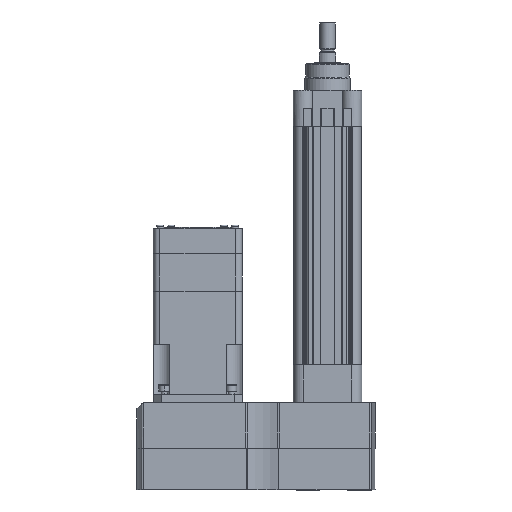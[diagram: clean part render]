
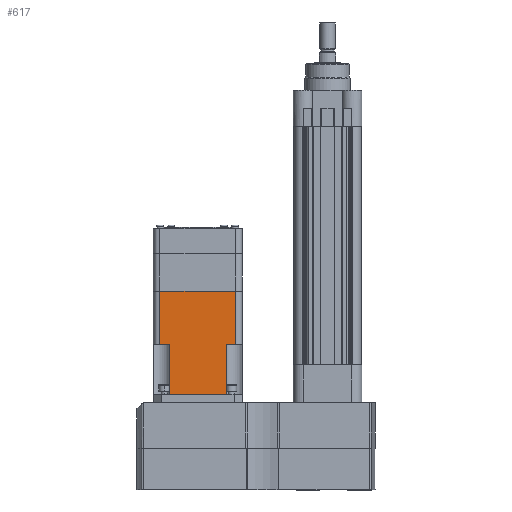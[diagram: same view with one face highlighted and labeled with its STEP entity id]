
A CAD part, front view. The second image highlights one B-rep face of the part: STEP entity #617.
In plain terms, the highlighted planar face has unit normal (0, -1, 0).
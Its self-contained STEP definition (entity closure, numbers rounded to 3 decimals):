
#172 = VERTEX_POINT ( 'NONE', #23578 ) ;
#617 = ADVANCED_FACE ( 'NONE', ( #43489 ), #12324, .F. ) ;
#759 = CARTESIAN_POINT ( 'NONE',  ( -6.401, -35.052, 35.052 ) ) ;
#2708 = CARTESIAN_POINT ( 'NONE',  ( -45.898, -35.052, 29.972 ) ) ;
#3036 = ORIENTED_EDGE ( 'NONE', *, *, #5559, .F. ) ;
#5559 = EDGE_CURVE ( 'NONE', #172, #39081, #31789, .T. ) ;
#6522 = EDGE_CURVE ( 'NONE', #32365, #30717, #11619, .T. ) ;
#6670 = LINE ( 'NONE', #27040, #39233 ) ;
#6953 = EDGE_CURVE ( 'NONE', #16240, #30579, #13266, .T. ) ;
#7124 = EDGE_CURVE ( 'NONE', #172, #16240, #14871, .T. ) ;
#9428 = VECTOR ( 'NONE', #18970, 1000. ) ;
#9833 = ORIENTED_EDGE ( 'NONE', *, *, #7124, .T. ) ;
#10155 = LINE ( 'NONE', #759, #11258 ) ;
#10171 = CARTESIAN_POINT ( 'NONE',  ( -45.898, -35.052, -22.476 ) ) ;
#11258 = VECTOR ( 'NONE', #21553, 1000. ) ;
#11619 = LINE ( 'NONE', #43266, #9428 ) ;
#12249 = ORIENTED_EDGE ( 'NONE', *, *, #40396, .F. ) ;
#12324 = PLANE ( 'NONE',  #33641 ) ;
#12861 = CARTESIAN_POINT ( 'NONE',  ( -87.884, -35.052, -29.972 ) ) ;
#13266 = LINE ( 'NONE', #14261, #30679 ) ;
#13301 = VECTOR ( 'NONE', #39608, 1000. ) ;
#13940 = VECTOR ( 'NONE', #35511, 1000. ) ;
#14261 = CARTESIAN_POINT ( 'NONE',  ( -87.884, -35.052, 29.972 ) ) ;
#14294 = EDGE_CURVE ( 'NONE', #32365, #30579, #6670, .T. ) ;
#14871 = LINE ( 'NONE', #42902, #32270 ) ;
#16240 = VERTEX_POINT ( 'NONE', #2708 ) ;
#16738 = CARTESIAN_POINT ( 'NONE',  ( -45.898, -35.052, -29.972 ) ) ;
#17452 = ORIENTED_EDGE ( 'NONE', *, *, #44166, .T. ) ;
#18843 = EDGE_LOOP ( 'NONE', ( #35543, #22085, #34067, #12249, #17452, #3036, #9833, #19650 ) ) ;
#18970 = DIRECTION ( 'NONE',  ( 1., 0., 0. ) ) ;
#19650 = ORIENTED_EDGE ( 'NONE', *, *, #6953, .T. ) ;
#21553 = DIRECTION ( 'NONE',  ( 0., 0., 1. ) ) ;
#22085 = ORIENTED_EDGE ( 'NONE', *, *, #6522, .T. ) ;
#22809 = CARTESIAN_POINT ( 'NONE',  ( -87.884, -35.052, 29.972 ) ) ;
#23161 = LINE ( 'NONE', #42311, #13940 ) ;
#23555 = VECTOR ( 'NONE', #41396, 1000. ) ;
#23578 = CARTESIAN_POINT ( 'NONE',  ( -45.898, -35.052, 22.476 ) ) ;
#26115 = DIRECTION ( 'NONE',  ( 0., 1., 0. ) ) ;
#27040 = CARTESIAN_POINT ( 'NONE',  ( -87.884, -35.052, 35.052 ) ) ;
#28861 = DIRECTION ( 'NONE',  ( 0., 0., 1. ) ) ;
#29638 = CARTESIAN_POINT ( 'NONE',  ( -87.884, -35.052, 35.052 ) ) ;
#30579 = VERTEX_POINT ( 'NONE', #22809 ) ;
#30679 = VECTOR ( 'NONE', #38536, 1000. ) ;
#30717 = VERTEX_POINT ( 'NONE', #16738 ) ;
#31789 = LINE ( 'NONE', #43085, #13301 ) ;
#32270 = VECTOR ( 'NONE', #28861, 1000. ) ;
#32365 = VERTEX_POINT ( 'NONE', #12861 ) ;
#32793 = LINE ( 'NONE', #10171, #23555 ) ;
#33641 = AXIS2_PLACEMENT_3D ( 'NONE', #29638, #26115, #36573 ) ;
#34067 = ORIENTED_EDGE ( 'NONE', *, *, #38895, .T. ) ;
#35304 = VERTEX_POINT ( 'NONE', #41513 ) ;
#35511 = DIRECTION ( 'NONE',  ( 0., 0., 1. ) ) ;
#35543 = ORIENTED_EDGE ( 'NONE', *, *, #14294, .F. ) ;
#36369 = CARTESIAN_POINT ( 'NONE',  ( -6.401, -35.052, 22.476 ) ) ;
#36573 = DIRECTION ( 'NONE',  ( 0., 0., 1. ) ) ;
#36634 = VERTEX_POINT ( 'NONE', #41907 ) ;
#37652 = DIRECTION ( 'NONE',  ( 0., 0., 1. ) ) ;
#38536 = DIRECTION ( 'NONE',  ( -1., 0., 0. ) ) ;
#38895 = EDGE_CURVE ( 'NONE', #30717, #36634, #23161, .T. ) ;
#39081 = VERTEX_POINT ( 'NONE', #36369 ) ;
#39233 = VECTOR ( 'NONE', #37652, 1000. ) ;
#39608 = DIRECTION ( 'NONE',  ( 1., 0., 0. ) ) ;
#40396 = EDGE_CURVE ( 'NONE', #35304, #36634, #32793, .T. ) ;
#41396 = DIRECTION ( 'NONE',  ( -1., 0., 0. ) ) ;
#41513 = CARTESIAN_POINT ( 'NONE',  ( -6.401, -35.052, -22.476 ) ) ;
#41907 = CARTESIAN_POINT ( 'NONE',  ( -45.898, -35.052, -22.476 ) ) ;
#42311 = CARTESIAN_POINT ( 'NONE',  ( -45.898, -35.052, 35.052 ) ) ;
#42902 = CARTESIAN_POINT ( 'NONE',  ( -45.898, -35.052, 35.052 ) ) ;
#43085 = CARTESIAN_POINT ( 'NONE',  ( -45.898, -35.052, 22.476 ) ) ;
#43266 = CARTESIAN_POINT ( 'NONE',  ( -87.884, -35.052, -29.972 ) ) ;
#43489 = FACE_OUTER_BOUND ( 'NONE', #18843, .T. ) ;
#44166 = EDGE_CURVE ( 'NONE', #35304, #39081, #10155, .T. ) ;
